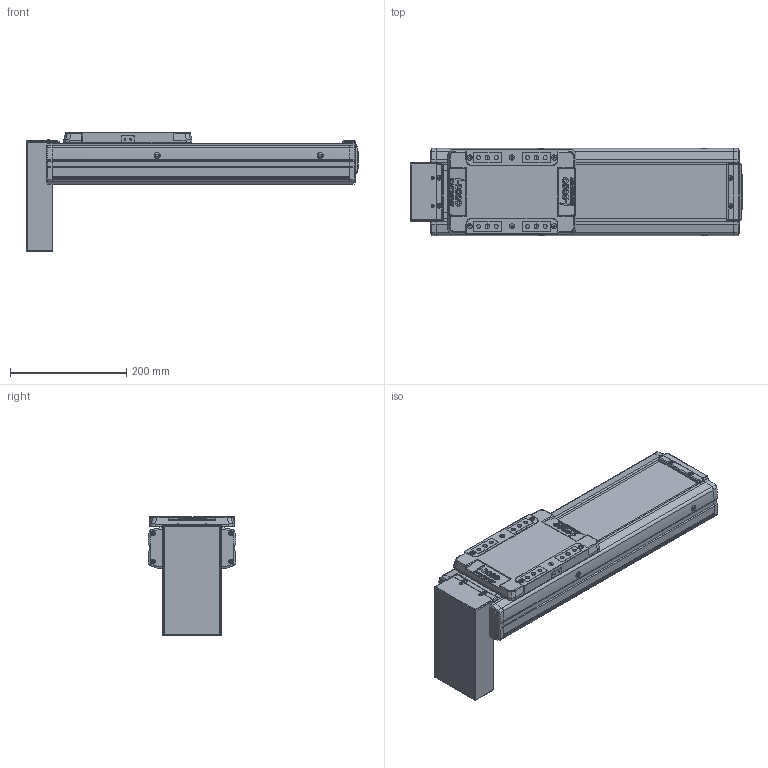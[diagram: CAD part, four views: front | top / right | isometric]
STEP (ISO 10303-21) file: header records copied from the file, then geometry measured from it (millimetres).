
FILE_DESCRIPTION(('STEP AP214'),'1');
FILE_NAME('Z:/Web/3D/SAN150/2013.04 (STP.)/SAN150ㅁㅁ-250PB.stp','2013-05-08T02:33:11',(' '),(' '),'Spatial InterOp 3D',' ',' ');
FILE_SCHEMA(('automotive_design'));
Length unit declared in the file: millimetre
Products named in the file (40): SLBL-SAN150; SLCV-SAN150; FHCS M4.0 x 8.0; BHCS M4.0 x 10.0; SFX-SAN150; RRCV-SAN150; FRBL-SAN150; Spacer; RN15; FRCV-SAN150; Screw 20; BASE-SAN150-000L ; SUS COVER; 스크루 : Round - M5.0 x 6.0; PB; 스크루 : Round - M3.0 x 6.0
Bounding box: 570 x 150 x 205.4 mm (x, y, z)
Volume: 4248862.2 mm3; surface area: 717349.1 mm2
Topology: 40 solids, 40 shells, 2041 faces, 5229 edges, 3342 vertices
Faces by surface type: plane 1023, cylinder 707, cone 218, sphere 60, bspline 21, torus 12
Entity records: 80580 total; most frequent: CARTESIAN_POINT 12894, DIRECTION 11104, ORIENTED_EDGE 10266, EDGE_CURVE 5133, AXIS2_PLACEMENT_3D 3983, VERTEX_POINT 3342, LINE 3138, VECTOR 3138
